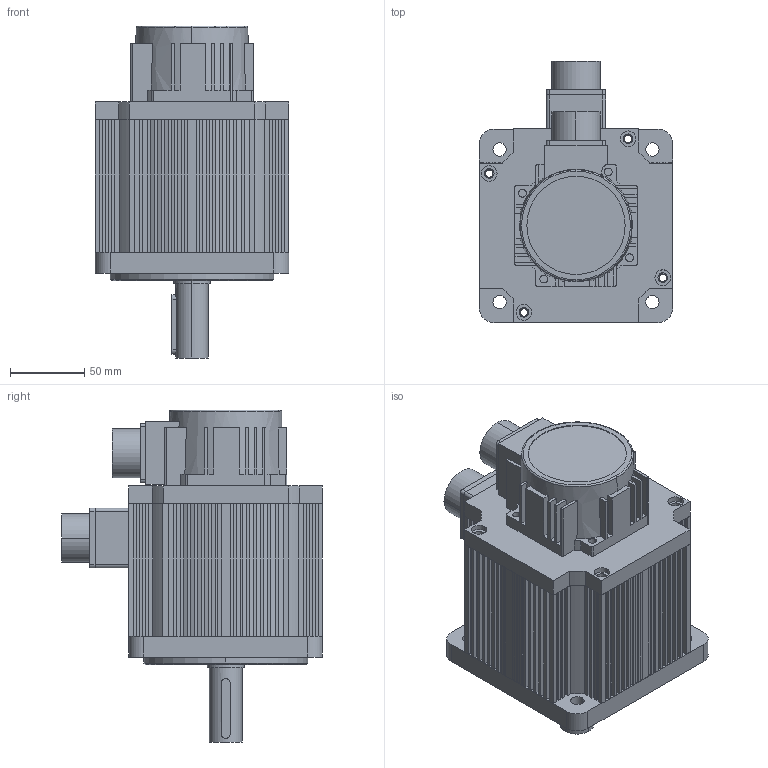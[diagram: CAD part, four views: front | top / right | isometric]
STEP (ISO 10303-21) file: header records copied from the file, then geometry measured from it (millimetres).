
FILE_DESCRIPTION (( 'STEP AP203' ), '1' );
FILE_NAME ('ASMJ-13-1025B-G322-01.STEP', '2024-04-25T00:48:31', ( 'Admin' ), ( '' ), 'SwSTEP 2.0', 'SolidWorks 2018', '' );
FILE_SCHEMA (( 'CONFIG_CONTROL_DESIGN' ));
Length unit declared in the file: millimetre
Products named in the file (1): ASMJ-13-1025B-G322-01
Bounding box: 130 x 175.3 x 223 mm (x, y, z)
Volume: 693879.1 mm3; surface area: 329470.4 mm2
Topology: 10 solids, 10 shells, 876 faces, 2411 edges, 1552 vertices
Faces by surface type: plane 490, cylinder 323, bspline 45, cone 18
Entity records: 29692 total; most frequent: CARTESIAN_POINT 7244, ORIENTED_EDGE 4698, DIRECTION 4599, EDGE_CURVE 2349, VERTEX_POINT 1552, LINE 1539, VECTOR 1539, AXIS2_PLACEMENT_3D 1530
